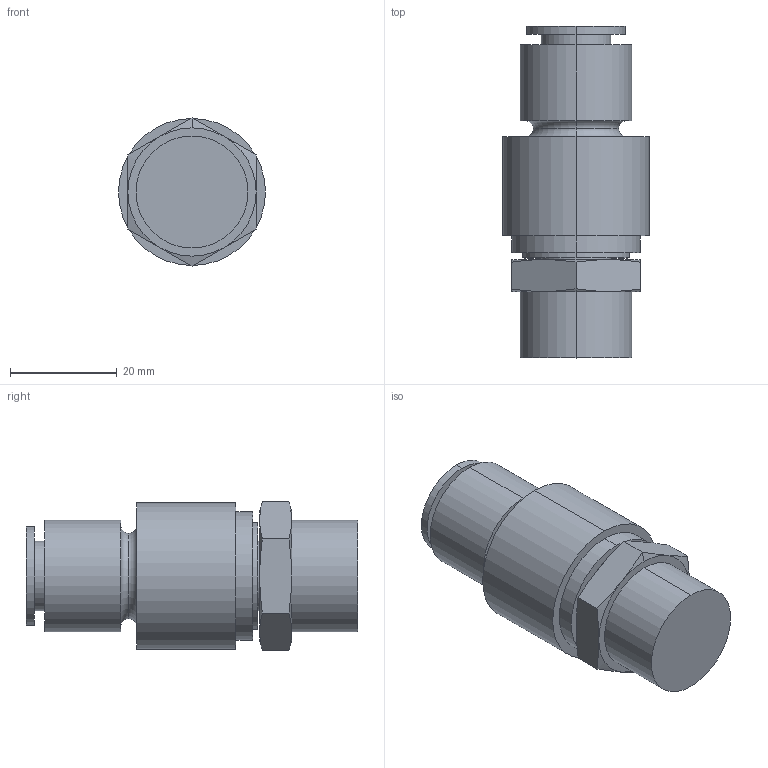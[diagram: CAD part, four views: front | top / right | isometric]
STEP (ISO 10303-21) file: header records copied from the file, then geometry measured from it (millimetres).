
FILE_DESCRIPTION (( 'STEP AP203' ), '1' );
FILE_NAME ('FKXH12-04.STEP', '2022-04-18T15:22:32', ( '' ), ( '' ), 'SwSTEP 2.0', 'SolidWorks 2019', '' );
FILE_SCHEMA (( 'CONFIG_CONTROL_DESIGN' ));
Length unit declared in the file: millimetre
Products named in the file (1): FKXH12-04
Bounding box: 27.5 x 62.1 x 27.71 mm (x, y, z)
Volume: 23762.4 mm3; surface area: 7696.7 mm2
Topology: 1 solids, 1 shells, 54 faces, 110 edges, 68 vertices
Faces by surface type: cylinder 18, plane 18, cone 14, torus 4
Entity records: 1855 total; most frequent: CARTESIAN_POINT 633, DIRECTION 256, ORIENTED_EDGE 220, AXIS2_PLACEMENT_3D 115, EDGE_CURVE 110, VERTEX_POINT 68, EDGE_LOOP 64, CIRCLE 60
